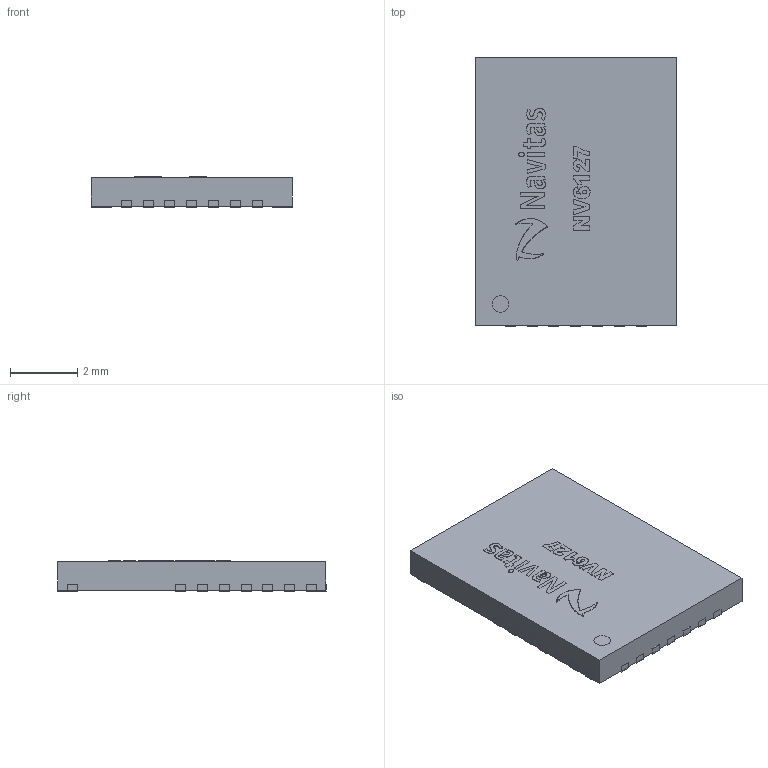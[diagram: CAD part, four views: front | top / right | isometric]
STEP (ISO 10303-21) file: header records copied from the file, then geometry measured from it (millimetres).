
FILE_DESCRIPTION(/* description */ (''),/* implementation_level */ '2;1');
FILE_NAME(/* name */ 'C:/Users/Tom/Documents/NV6127.stp',/* time_stamp */ '2020-03-02T11:00:41-08:00',/* author */ (''),/* organization */ (''),/* preprocessor_version */ 'ST-DEVELOPER v15.2',/* originating_system */ 'Autodesk Translator Framework v2.0.0.5431',/* authorisation */ '');
FILE_SCHEMA (('AUTOMOTIVE_DESIGN { 1 0 10303 214 3 1 1 }'));
Length unit declared in the file: centimetre
Products named in the file (1): NV6127
Bounding box: 6.02 x 8.02 x 0.9 mm (x, y, z)
Surface area: 189.8 mm2
Topology: 48 solids, 48 shells, 811 faces, 2145 edges, 1430 vertices
Faces by surface type: bspline 504, plane 306, cylinder 1
Full cylindrical faces by diameter (mm): 0.5 x1
Entity records: 30065 total; most frequent: CARTESIAN_POINT 14214, ORIENTED_EDGE 4288, EDGE_CURVE 2144, DIRECTION 1754, VERTEX_POINT 1430, LINE 1134, VECTOR 1134, EDGE_LOOP 818
